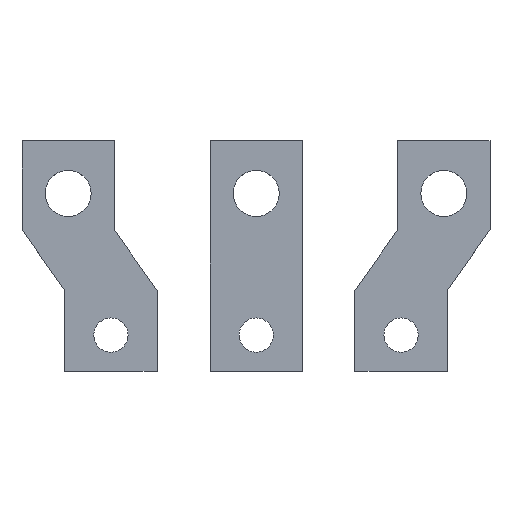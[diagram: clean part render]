
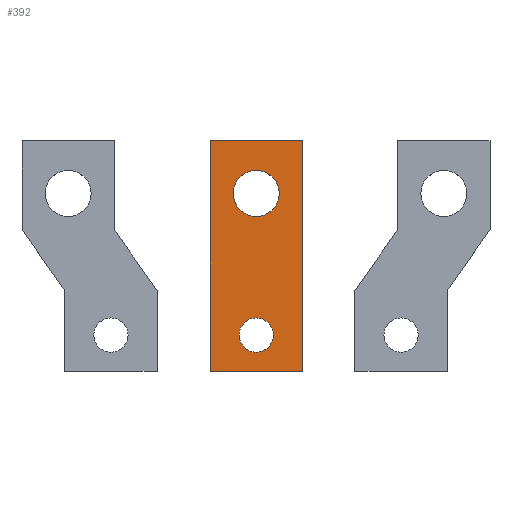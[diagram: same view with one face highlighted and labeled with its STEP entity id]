
A CAD part, top view. The second image highlights one B-rep face of the part: STEP entity #392.
In plain terms, the highlighted planar face has unit normal (0, 0, 1).
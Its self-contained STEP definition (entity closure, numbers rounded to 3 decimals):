
#43 = VERTEX_POINT('',#44);
#44 = CARTESIAN_POINT('',(0.,0.,6.));
#51 = PLANE('',#52);
#52 = AXIS2_PLACEMENT_3D('',#53,#54,#55);
#53 = CARTESIAN_POINT('',(0.,0.,0.));
#54 = DIRECTION('',(0.,1.,0.));
#55 = DIRECTION('',(1.,0.,0.));
#63 = PLANE('',#64);
#64 = AXIS2_PLACEMENT_3D('',#65,#66,#67);
#65 = CARTESIAN_POINT('',(0.,70.,0.));
#66 = DIRECTION('',(1.,0.,0.));
#67 = DIRECTION('',(0.,-1.,0.));
#75 = EDGE_CURVE('',#43,#76,#78,.T.);
#76 = VERTEX_POINT('',#77);
#77 = CARTESIAN_POINT('',(28.,0.,6.));
#78 = SURFACE_CURVE('',#79,(#83,#90),.PCURVE_S1.);
#79 = LINE('',#80,#81);
#80 = CARTESIAN_POINT('',(0.,0.,6.));
#81 = VECTOR('',#82,1.);
#82 = DIRECTION('',(1.,0.,0.));
#83 = PCURVE('',#51,#84);
#84 = DEFINITIONAL_REPRESENTATION('',(#85),#89);
#85 = LINE('',#86,#87);
#86 = CARTESIAN_POINT('',(0.,-6.));
#87 = VECTOR('',#88,1.);
#88 = DIRECTION('',(1.,0.));
#89 = ( GEOMETRIC_REPRESENTATION_CONTEXT(2) 
PARAMETRIC_REPRESENTATION_CONTEXT() REPRESENTATION_CONTEXT('2D SPACE',''
  ) );
#90 = PCURVE('',#91,#96);
#91 = PLANE('',#92);
#92 = AXIS2_PLACEMENT_3D('',#93,#94,#95);
#93 = CARTESIAN_POINT('',(14.,35.,6.));
#94 = DIRECTION('',(0.,0.,1.));
#95 = DIRECTION('',(1.,0.,0.));
#96 = DEFINITIONAL_REPRESENTATION('',(#97),#101);
#97 = LINE('',#98,#99);
#98 = CARTESIAN_POINT('',(-14.,-35.));
#99 = VECTOR('',#100,1.);
#100 = DIRECTION('',(1.,0.));
#101 = ( GEOMETRIC_REPRESENTATION_CONTEXT(2) 
PARAMETRIC_REPRESENTATION_CONTEXT() REPRESENTATION_CONTEXT('2D SPACE',''
  ) );
#119 = PLANE('',#120);
#120 = AXIS2_PLACEMENT_3D('',#121,#122,#123);
#121 = CARTESIAN_POINT('',(28.,0.,0.));
#122 = DIRECTION('',(-1.,0.,0.));
#123 = DIRECTION('',(0.,1.,0.));
#163 = VERTEX_POINT('',#164);
#164 = CARTESIAN_POINT('',(0.,70.,6.));
#178 = PLANE('',#179);
#179 = AXIS2_PLACEMENT_3D('',#180,#181,#182);
#180 = CARTESIAN_POINT('',(28.,70.,0.));
#181 = DIRECTION('',(0.,-1.,0.));
#182 = DIRECTION('',(-1.,0.,0.));
#190 = EDGE_CURVE('',#163,#43,#191,.T.);
#191 = SURFACE_CURVE('',#192,(#196,#203),.PCURVE_S1.);
#192 = LINE('',#193,#194);
#193 = CARTESIAN_POINT('',(0.,70.,6.));
#194 = VECTOR('',#195,1.);
#195 = DIRECTION('',(0.,-1.,0.));
#196 = PCURVE('',#63,#197);
#197 = DEFINITIONAL_REPRESENTATION('',(#198),#202);
#198 = LINE('',#199,#200);
#199 = CARTESIAN_POINT('',(0.,-6.));
#200 = VECTOR('',#201,1.);
#201 = DIRECTION('',(1.,0.));
#202 = ( GEOMETRIC_REPRESENTATION_CONTEXT(2) 
PARAMETRIC_REPRESENTATION_CONTEXT() REPRESENTATION_CONTEXT('2D SPACE',''
  ) );
#203 = PCURVE('',#91,#204);
#204 = DEFINITIONAL_REPRESENTATION('',(#205),#209);
#205 = LINE('',#206,#207);
#206 = CARTESIAN_POINT('',(-14.,35.));
#207 = VECTOR('',#208,1.);
#208 = DIRECTION('',(0.,-1.));
#209 = ( GEOMETRIC_REPRESENTATION_CONTEXT(2) 
PARAMETRIC_REPRESENTATION_CONTEXT() REPRESENTATION_CONTEXT('2D SPACE',''
  ) );
#237 = EDGE_CURVE('',#76,#238,#240,.T.);
#238 = VERTEX_POINT('',#239);
#239 = CARTESIAN_POINT('',(28.,70.,6.));
#240 = SURFACE_CURVE('',#241,(#245,#252),.PCURVE_S1.);
#241 = LINE('',#242,#243);
#242 = CARTESIAN_POINT('',(28.,0.,6.));
#243 = VECTOR('',#244,1.);
#244 = DIRECTION('',(0.,1.,0.));
#245 = PCURVE('',#119,#246);
#246 = DEFINITIONAL_REPRESENTATION('',(#247),#251);
#247 = LINE('',#248,#249);
#248 = CARTESIAN_POINT('',(0.,-6.));
#249 = VECTOR('',#250,1.);
#250 = DIRECTION('',(1.,0.));
#251 = ( GEOMETRIC_REPRESENTATION_CONTEXT(2) 
PARAMETRIC_REPRESENTATION_CONTEXT() REPRESENTATION_CONTEXT('2D SPACE',''
  ) );
#252 = PCURVE('',#91,#253);
#253 = DEFINITIONAL_REPRESENTATION('',(#254),#258);
#254 = LINE('',#255,#256);
#255 = CARTESIAN_POINT('',(14.,-35.));
#256 = VECTOR('',#257,1.);
#257 = DIRECTION('',(0.,1.));
#258 = ( GEOMETRIC_REPRESENTATION_CONTEXT(2) 
PARAMETRIC_REPRESENTATION_CONTEXT() REPRESENTATION_CONTEXT('2D SPACE',''
  ) );
#350 = CYLINDRICAL_SURFACE('',#351,5.2);
#351 = AXIS2_PLACEMENT_3D('',#352,#353,#354);
#352 = CARTESIAN_POINT('',(14.,11.,6.));
#353 = DIRECTION('',(0.,0.,1.));
#354 = DIRECTION('',(1.,0.,-0.));
#381 = CYLINDRICAL_SURFACE('',#382,7.);
#382 = AXIS2_PLACEMENT_3D('',#383,#384,#385);
#383 = CARTESIAN_POINT('',(14.,54.,6.));
#384 = DIRECTION('',(0.,0.,1.));
#385 = DIRECTION('',(1.,0.,-0.));
#392 = ADVANCED_FACE('',(#393,#419,#445),#91,.T.);
#393 = FACE_BOUND('',#394,.T.);
#394 = EDGE_LOOP('',(#395,#396,#397,#418));
#395 = ORIENTED_EDGE('',*,*,#75,.T.);
#396 = ORIENTED_EDGE('',*,*,#237,.T.);
#397 = ORIENTED_EDGE('',*,*,#398,.T.);
#398 = EDGE_CURVE('',#238,#163,#399,.T.);
#399 = SURFACE_CURVE('',#400,(#404,#411),.PCURVE_S1.);
#400 = LINE('',#401,#402);
#401 = CARTESIAN_POINT('',(28.,70.,6.));
#402 = VECTOR('',#403,1.);
#403 = DIRECTION('',(-1.,0.,0.));
#404 = PCURVE('',#91,#405);
#405 = DEFINITIONAL_REPRESENTATION('',(#406),#410);
#406 = LINE('',#407,#408);
#407 = CARTESIAN_POINT('',(14.,35.));
#408 = VECTOR('',#409,1.);
#409 = DIRECTION('',(-1.,0.));
#410 = ( GEOMETRIC_REPRESENTATION_CONTEXT(2) 
PARAMETRIC_REPRESENTATION_CONTEXT() REPRESENTATION_CONTEXT('2D SPACE',''
  ) );
#411 = PCURVE('',#178,#412);
#412 = DEFINITIONAL_REPRESENTATION('',(#413),#417);
#413 = LINE('',#414,#415);
#414 = CARTESIAN_POINT('',(0.,-6.));
#415 = VECTOR('',#416,1.);
#416 = DIRECTION('',(1.,0.));
#417 = ( GEOMETRIC_REPRESENTATION_CONTEXT(2) 
PARAMETRIC_REPRESENTATION_CONTEXT() REPRESENTATION_CONTEXT('2D SPACE',''
  ) );
#418 = ORIENTED_EDGE('',*,*,#190,.T.);
#419 = FACE_BOUND('',#420,.T.);
#420 = EDGE_LOOP('',(#421));
#421 = ORIENTED_EDGE('',*,*,#422,.F.);
#422 = EDGE_CURVE('',#423,#423,#425,.T.);
#423 = VERTEX_POINT('',#424);
#424 = CARTESIAN_POINT('',(19.2,11.,6.));
#425 = SURFACE_CURVE('',#426,(#431,#438),.PCURVE_S1.);
#426 = CIRCLE('',#427,5.2);
#427 = AXIS2_PLACEMENT_3D('',#428,#429,#430);
#428 = CARTESIAN_POINT('',(14.,11.,6.));
#429 = DIRECTION('',(0.,0.,1.));
#430 = DIRECTION('',(1.,0.,0.));
#431 = PCURVE('',#91,#432);
#432 = DEFINITIONAL_REPRESENTATION('',(#433),#437);
#433 = CIRCLE('',#434,5.2);
#434 = AXIS2_PLACEMENT_2D('',#435,#436);
#435 = CARTESIAN_POINT('',(0.,-24.));
#436 = DIRECTION('',(1.,0.));
#437 = ( GEOMETRIC_REPRESENTATION_CONTEXT(2) 
PARAMETRIC_REPRESENTATION_CONTEXT() REPRESENTATION_CONTEXT('2D SPACE',''
  ) );
#438 = PCURVE('',#350,#439);
#439 = DEFINITIONAL_REPRESENTATION('',(#440),#444);
#440 = LINE('',#441,#442);
#441 = CARTESIAN_POINT('',(0.,0.));
#442 = VECTOR('',#443,1.);
#443 = DIRECTION('',(1.,0.));
#444 = ( GEOMETRIC_REPRESENTATION_CONTEXT(2) 
PARAMETRIC_REPRESENTATION_CONTEXT() REPRESENTATION_CONTEXT('2D SPACE',''
  ) );
#445 = FACE_BOUND('',#446,.T.);
#446 = EDGE_LOOP('',(#447));
#447 = ORIENTED_EDGE('',*,*,#448,.F.);
#448 = EDGE_CURVE('',#449,#449,#451,.T.);
#449 = VERTEX_POINT('',#450);
#450 = CARTESIAN_POINT('',(21.,54.,6.));
#451 = SURFACE_CURVE('',#452,(#457,#464),.PCURVE_S1.);
#452 = CIRCLE('',#453,7.);
#453 = AXIS2_PLACEMENT_3D('',#454,#455,#456);
#454 = CARTESIAN_POINT('',(14.,54.,6.));
#455 = DIRECTION('',(0.,0.,1.));
#456 = DIRECTION('',(1.,0.,0.));
#457 = PCURVE('',#91,#458);
#458 = DEFINITIONAL_REPRESENTATION('',(#459),#463);
#459 = CIRCLE('',#460,7.);
#460 = AXIS2_PLACEMENT_2D('',#461,#462);
#461 = CARTESIAN_POINT('',(0.,19.));
#462 = DIRECTION('',(1.,0.));
#463 = ( GEOMETRIC_REPRESENTATION_CONTEXT(2) 
PARAMETRIC_REPRESENTATION_CONTEXT() REPRESENTATION_CONTEXT('2D SPACE',''
  ) );
#464 = PCURVE('',#381,#465);
#465 = DEFINITIONAL_REPRESENTATION('',(#466),#470);
#466 = LINE('',#467,#468);
#467 = CARTESIAN_POINT('',(0.,0.));
#468 = VECTOR('',#469,1.);
#469 = DIRECTION('',(1.,0.));
#470 = ( GEOMETRIC_REPRESENTATION_CONTEXT(2) 
PARAMETRIC_REPRESENTATION_CONTEXT() REPRESENTATION_CONTEXT('2D SPACE',''
  ) );
